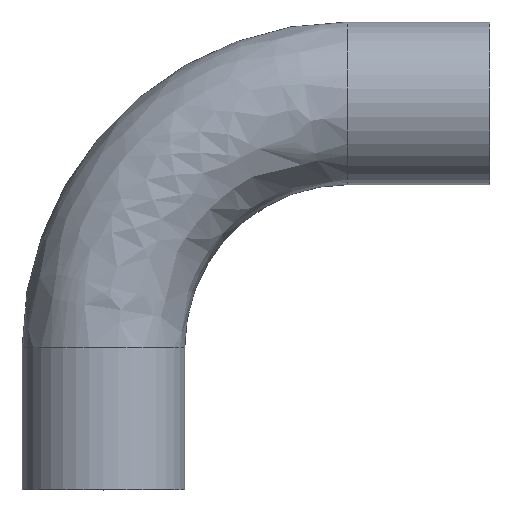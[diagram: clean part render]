
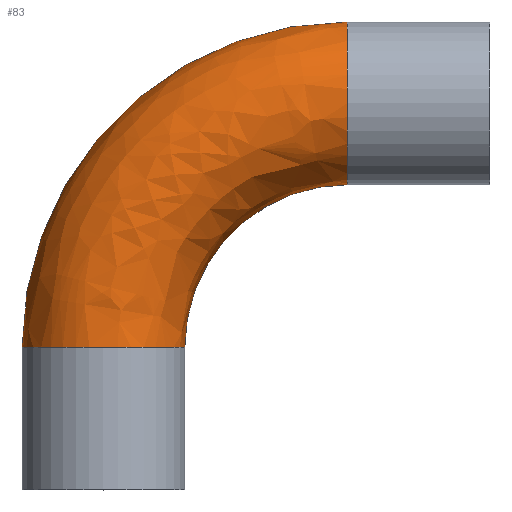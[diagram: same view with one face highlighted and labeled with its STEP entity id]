
A CAD part, top view. The second image highlights one B-rep face of the part: STEP entity #83.
In plain terms, the highlighted free-form (B-spline) face has degree [3, 3] with [4, 4] control points.
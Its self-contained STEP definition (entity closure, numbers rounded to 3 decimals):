
#11 = EDGE_CURVE ( 'NONE', #188, #198, #247, .T. ) ;
#26 = CARTESIAN_POINT ( 'NONE',  ( 76.2, 146.1, 50.8 ) ) ;
#45 = ORIENTED_EDGE ( 'NONE', *, *, #66, .F. ) ;
#64 = AXIS2_PLACEMENT_3D ( 'NONE', #338, #343, #345 ) ;
#66 = EDGE_CURVE ( 'NONE', #188, #124, #416, .T. ) ;
#83 = ADVANCED_FACE ( 'NONE', ( #363 ), #463, .T. ) ;
#90 = CARTESIAN_POINT ( 'NONE',  ( 76.2, 95.3, 50.8 ) ) ;
#124 = VERTEX_POINT ( 'NONE', #288 ) ;
#134 = DIRECTION ( 'NONE',  ( -1., 0., 0. ) ) ;
#136 = DIRECTION ( 'NONE',  ( 0., 0., -1. ) ) ;
#137 = CARTESIAN_POINT ( 'NONE',  ( 76.2, 44.5, 0. ) ) ;
#147 = EDGE_CURVE ( 'NONE', #231, #124, #423, .T. ) ;
#155 = CIRCLE ( 'NONE', #401, 50.8 ) ;
#165 = CARTESIAN_POINT ( 'NONE',  ( 76.2, 95.3, 0. ) ) ;
#171 = ORIENTED_EDGE ( 'NONE', *, *, #11, .T. ) ;
#188 = VERTEX_POINT ( 'NONE', #192 ) ;
#192 = CARTESIAN_POINT ( 'NONE',  ( -25.4, 44.5, 0. ) ) ;
#195 = CARTESIAN_POINT ( 'NONE',  ( -25.4, 44.5, 0. ) ) ;
#198 = VERTEX_POINT ( 'NONE', #222 ) ;
#205 = CARTESIAN_POINT ( 'NONE',  ( 25.4, 74.258, 0. ) ) ;
#212 = DIRECTION ( 'NONE',  ( -1., 0., 0. ) ) ;
#216 = CARTESIAN_POINT ( 'NONE',  ( 76.2, 120.7, 0. ) ) ;
#222 = CARTESIAN_POINT ( 'NONE',  ( 25.4, 44.5, 0. ) ) ;
#225 = EDGE_LOOP ( 'NONE', ( #171, #286, #350, #45 ) ) ;
#231 = VERTEX_POINT ( 'NONE', #165 ) ;
#232 = EDGE_CURVE ( 'NONE', #198, #231, #155, .T. ) ;
#247 = CIRCLE ( 'NONE', #256, 25.4 ) ;
#256 = AXIS2_PLACEMENT_3D ( 'NONE', #336, #339, #351 ) ;
#286 = ORIENTED_EDGE ( 'NONE', *, *, #232, .T. ) ;
#288 = CARTESIAN_POINT ( 'NONE',  ( 76.2, 146.1, 0. ) ) ;
#290 = DIRECTION ( 'NONE',  ( 0., 1., 0. ) ) ;
#295 = CARTESIAN_POINT ( 'NONE',  ( 25.4, 44.5, 50.8 ) ) ;
#298 = CARTESIAN_POINT ( 'NONE',  ( 25.4, 74.258, 50.8 ) ) ;
#309 = CARTESIAN_POINT ( 'NONE',  ( 46.442, 95.3, 50.8 ) ) ;
#315 = CARTESIAN_POINT ( 'NONE',  ( 16.684, 146.1, 50.8 ) ) ;
#316 = CARTESIAN_POINT ( 'NONE',  ( 25.4, 44.5, 0. ) ) ;
#317 = CARTESIAN_POINT ( 'NONE',  ( 76.2, 95.3, 0. ) ) ;
#320 = CARTESIAN_POINT ( 'NONE',  ( -25.4, 104.016, 50.8 ) ) ;
#324 = CARTESIAN_POINT ( 'NONE',  ( -25.4, 44.5, 50.8 ) ) ;
#336 = CARTESIAN_POINT ( 'NONE',  ( 0., 44.5, 0. ) ) ;
#338 = CARTESIAN_POINT ( 'NONE',  ( 76.2, 44.5, 0. ) ) ;
#339 = DIRECTION ( 'NONE',  ( 0., 1., 0. ) ) ;
#343 = DIRECTION ( 'NONE',  ( 0., 0., -1. ) ) ;
#345 = DIRECTION ( 'NONE',  ( -1., 0., 0. ) ) ;
#350 = ORIENTED_EDGE ( 'NONE', *, *, #147, .T. ) ;
#351 = DIRECTION ( 'NONE',  ( -1., 0., 0. ) ) ;
#355 = CARTESIAN_POINT ( 'NONE',  ( 16.684, 146.1, 0. ) ) ;
#363 = FACE_OUTER_BOUND ( 'NONE', #225, .T. ) ;
#393 = AXIS2_PLACEMENT_3D ( 'NONE', #216, #212, #290 ) ;
#401 = AXIS2_PLACEMENT_3D ( 'NONE', #137, #136, #134 ) ;
#404 = CARTESIAN_POINT ( 'NONE',  ( 76.2, 146.1, 0. ) ) ;
#416 = CIRCLE ( 'NONE', #64, 101.6 ) ;
#423 = CIRCLE ( 'NONE', #393, 25.4 ) ;
#438 = CARTESIAN_POINT ( 'NONE',  ( 46.442, 95.3, 0. ) ) ;
#452 = CARTESIAN_POINT ( 'NONE',  ( -25.4, 104.016, 0. ) ) ;
#463 =( BOUNDED_SURFACE ( )  B_SPLINE_SURFACE ( 3, 3, ( 
 ( #195, #452, #355, #404 ),
 ( #324, #320, #315, #26 ),
 ( #295, #298, #309, #90 ),
 ( #316, #205, #438, #317 ) ),
 .UNSPECIFIED., .F., .F., .F. ) 
 B_SPLINE_SURFACE_WITH_KNOTS ( ( 4, 4 ),
 ( 4, 4 ),
 ( 0., 1. ),
 ( 0., 1. ),
 .UNSPECIFIED. ) 
 GEOMETRIC_REPRESENTATION_ITEM ( )  RATIONAL_B_SPLINE_SURFACE ( (
 ( 1., 0.805, 0.805, 1.),
 ( 0.333, 0.268, 0.268, 0.333),
 ( 0.333, 0.268, 0.268, 0.333),
 ( 1., 0.805, 0.805, 1.) ) ) 
 REPRESENTATION_ITEM ( '' )  SURFACE ( )  );
